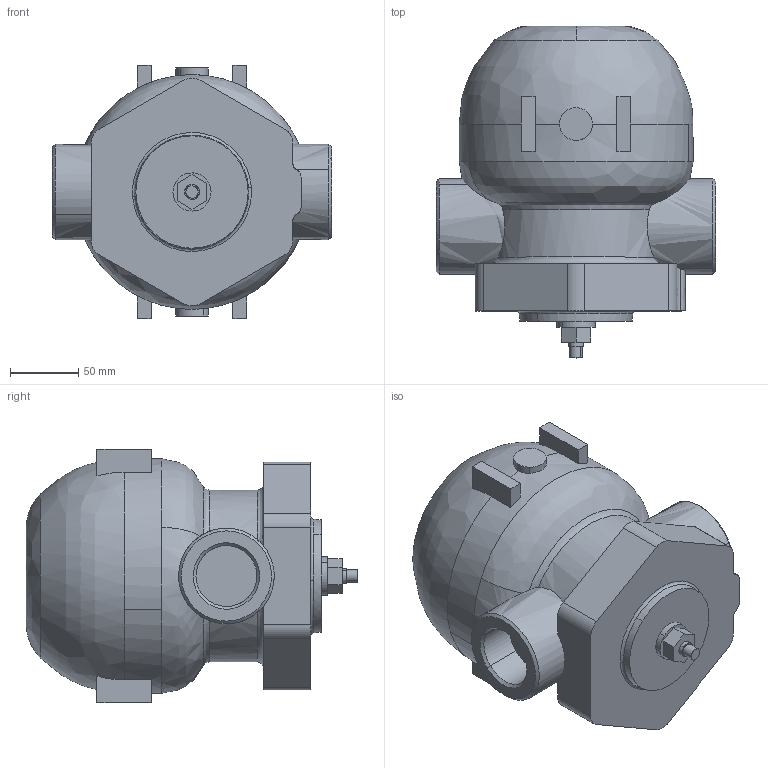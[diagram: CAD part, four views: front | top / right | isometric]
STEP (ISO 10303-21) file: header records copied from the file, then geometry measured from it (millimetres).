
FILE_DESCRIPTION((''),'2;1');
FILE_NAME('','2019-07-12T17:35:26',(''),(''),'','CADfix','');
FILE_SCHEMA(('AUTOMOTIVE_DESIGN { 1 0 10303 214 1 1 1 1 }'));
Length unit declared in the file: millimetre
Bounding box: 205 x 243.5 x 186 mm (x, y, z)
Volume: 4040448.1 mm3; surface area: 170764 mm2
Topology: 1 solids, 1 shells, 102 faces, 363 edges, 271 vertices
Faces by surface type: bspline 102
Entity records: 5838 total; most frequent: CARTESIAN_POINT 3771, ORIENTED_EDGE 726, EDGE_CURVE 363, VERTEX_POINT 271, B_SPLINE_CURVE_WITH_KNOTS 192, QUASI_UNIFORM_CURVE 126, EDGE_LOOP 110, FACE_OUTER_BOUND 102
